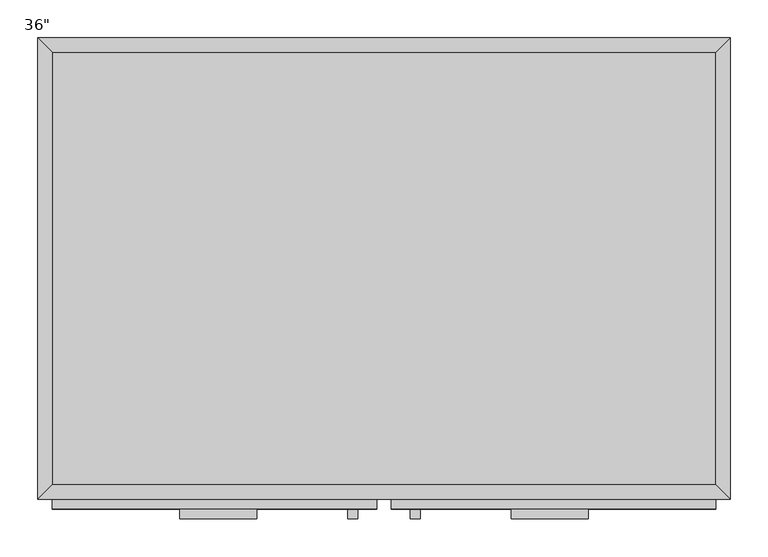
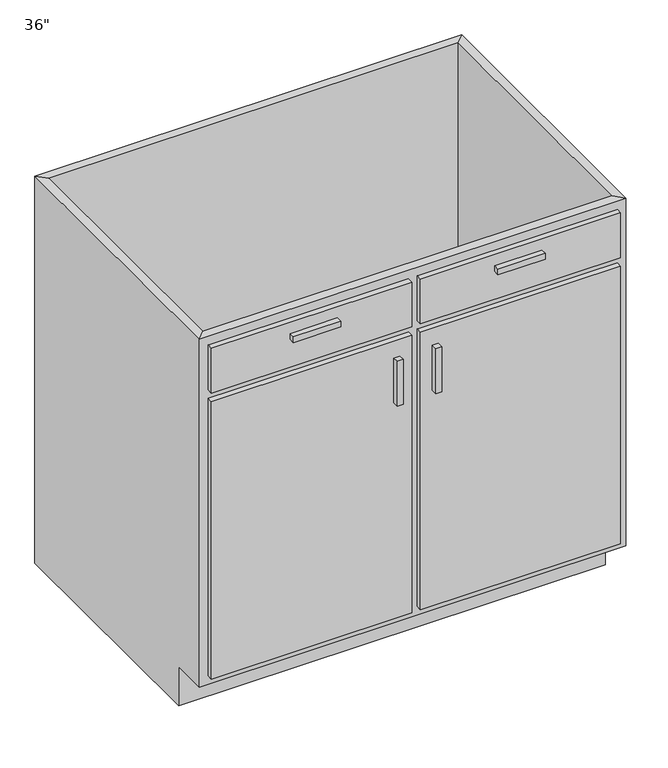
"""IFC4 building model written with IfcOpenShell, lengths in millimetres: furniture geometry."""

from ifc_helpers import new_model, si_unit, frame, origin, place, context, project, spatial, polyline, outline, extrude, faceted_brep, source, transform, mapped, element, save


def furniture_b6fbc004(model_context):
    return source(origin(), model_context, "Body", "SolidModel", [
        faceted_brep([(456.8877049, -590.55, 876.3), (456.8877049, -590.55, 88.9), (-419.4122951, -590.55, 88.9), (-419.4122951, -590.55, 876.3), (-438.4622951, -609.6, 876.3), (475.9377049, -609.6, 876.3), (-438.4622951, -609.6, 88.9), (475.9377049, -609.6, 88.9), (-419.4122951, -533.4, 88.9), (-419.4122951, -19.05, 88.9), (-419.4122951, -19.05, 876.3), (-438.4622951, 0.0, 876.3), (-438.4622951, 0.0, 0.0), (-438.4622951, -533.4, 0.0), (-438.4622951, -533.4, 88.9), (456.8877049, -19.05, 88.9), (456.8877049, -19.05, 876.3), (475.9377049, 0.0, 876.3), (475.9377049, 0.0, 0.0), (456.8877049, -533.4, 88.9), (475.9377049, -533.4, 88.9), (475.9377049, -533.4, 0.0)], [[[0, 1, 2, 3]], [[0, 3, 4, 5]], [[5, 4, 6, 7]], [[2, 1, 7, 6]], [[3, 2, 8, 9, 10]], [[4, 3, 10, 11]], [[6, 4, 11, 12, 13, 14]], [[2, 6, 14, 8]], [[10, 9, 15, 16]], [[11, 10, 16, 17]], [[12, 11, 17, 18]], [[1, 0, 16, 15, 19]], [[0, 5, 17, 16]], [[5, 7, 20, 21, 18, 17]], [[7, 1, 19, 20]], [[8, 19, 15, 9]], [[18, 21, 13, 12]], [[13, 21, 20, 19, 8, 14]]]),
        extrude(outline(polyline([(-149.5372951, -635.0), (-251.1372951, -635.0), (-251.1372951, -622.3), (-149.5372951, -622.3), (-149.5372951, -635.0)])), frame((0.0, 0.0, 819.15), z_axis=(0.0, 0.0, 1.0), x_axis=(1.0, 0.0, 0.0)), (0.0, 0.0, 1.0), 12.7),
        extrude(outline(polyline([(288.6127049, -635.0), (187.0127049, -635.0), (187.0127049, -622.3), (288.6127049, -622.3), (288.6127049, -635.0)])), frame((0.0, 0.0, 819.15), z_axis=(0.0, 0.0, 1.0), x_axis=(1.0, 0.0, 0.0)), (0.0, 0.0, 1.0), 12.7),
        extrude(outline(polyline([(-16.1872951, -635.0), (-28.8872951, -635.0), (-28.8872951, -622.3), (-16.1872951, -622.3), (-16.1872951, -635.0)])), frame((0.0, 0.0, 596.9), z_axis=(0.0, 0.0, 1.0), x_axis=(1.0, 0.0, 0.0)), (0.0, 0.0, 1.0), 101.6),
        extrude(outline(polyline([(66.3627049, -635.0), (53.6627049, -635.0), (53.6627049, -622.3), (66.3627049, -622.3), (66.3627049, -635.0)])), frame((0.0, 0.0, 596.9), z_axis=(0.0, 0.0, 1.0), x_axis=(1.0, 0.0, 0.0)), (0.0, 0.0, 1.0), 101.6),
        extrude(outline(polyline([(456.8877049, -19.05), (456.8877049, -590.55), (-419.4122951, -590.55), (-419.4122951, -19.05), (456.8877049, -19.05)])), frame((0.0, 0.0, 88.9), z_axis=(0.0, 0.0, 1.0), x_axis=(1.0, 0.0, 0.0)), (0.0, 0.0, 1.0), 19.05),
        extrude(outline(polyline([(9.2127049, -622.3), (-419.4122951, -622.3), (-419.4122951, -609.6), (9.2127049, -609.6), (9.2127049, -622.3)])), frame((0.0, 0.0, 755.65), z_axis=(0.0, 0.0, 1.0), x_axis=(1.0, 0.0, 0.0)), (0.0, 0.0, 1.0), 101.6),
        extrude(outline(polyline([(456.8877049, -622.3), (28.2627049, -622.3), (28.2627049, -609.6), (456.8877049, -609.6), (456.8877049, -622.3)])), frame((0.0, 0.0, 755.65), z_axis=(0.0, 0.0, 1.0), x_axis=(1.0, 0.0, 0.0)), (0.0, 0.0, 1.0), 101.6),
        extrude(outline(polyline([(9.2127049, -622.3), (-419.4122951, -622.3), (-419.4122951, -609.6), (9.2127049, -609.6), (9.2127049, -622.3)])), frame((0.0, 0.0, 107.95), z_axis=(0.0, 0.0, 1.0), x_axis=(1.0, 0.0, 0.0)), (0.0, 0.0, 1.0), 628.65),
        extrude(outline(polyline([(456.8877049, -622.3), (28.2627049, -622.3), (28.2627049, -609.6), (456.8877049, -609.6), (456.8877049, -622.3)])), frame((0.0, 0.0, 107.95), z_axis=(0.0, 0.0, 1.0), x_axis=(1.0, 0.0, 0.0)), (0.0, 0.0, 1.0), 628.65),
    ])


if __name__ == "__main__":
    model = new_model("IFC4")
    model_context = context("Model", 3, world=origin())
    ifc_project = project(units=[si_unit("LENGTHUNIT", "METRE", prefix="MILLI")], contexts=[model_context])
    site = spatial("IfcSite", under=ifc_project)
    building = spatial("IfcBuilding", under=site)
    placement = place(None, origin())
    furniture_shape = furniture_b6fbc004(model_context)
    element("IfcFurniture", 1, ObjectType="Base Cabinet-Double Door & 2 Drawer : 36\"", at=placement, inside=building, context=model_context, shape_type="MappedRepresentation", body=[
        mapped(furniture_shape, transform((0.0, 0.0, 0.0), x_axis=(1.0, 0.0, 0.0), y_axis=(0.0, 1.0, 0.0), z_axis=(0.0, 0.0, 1.0))),
    ])
    save(model, "model.ifc")
